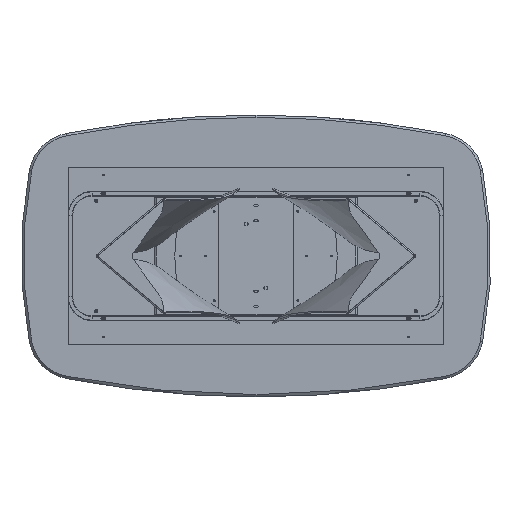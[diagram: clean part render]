
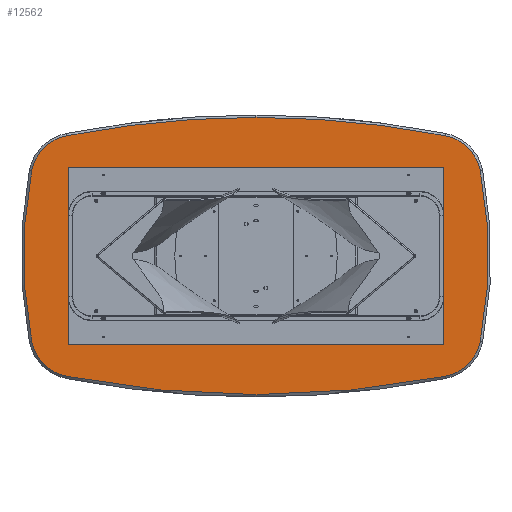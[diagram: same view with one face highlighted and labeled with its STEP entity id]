
A CAD part, front view. The second image highlights one B-rep face of the part: STEP entity #12562.
In plain terms, the highlighted planar face has unit normal (0, -1, 0).
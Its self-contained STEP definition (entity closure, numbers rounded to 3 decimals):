
#808 = DIRECTION ( 'NONE',  ( 0., 0., 1. ) ) ;
#1312 = DIRECTION ( 'NONE',  ( 0., 0., 1. ) ) ;
#1448 = DIRECTION ( 'NONE',  ( 0., -1., 0. ) ) ;
#1737 = CARTESIAN_POINT ( 'NONE',  ( 954.894, 0., -362.002 ) ) ;
#2273 = ORIENTED_EDGE ( 'NONE', *, *, #12374, .T. ) ;
#2516 = DIRECTION ( 'NONE',  ( 0., -1., 0. ) ) ;
#2934 = CARTESIAN_POINT ( 'NONE',  ( -768.435, 0., 325.495 ) ) ;
#3034 = DIRECTION ( 'NONE',  ( 0., 0., 1. ) ) ;
#3231 = EDGE_CURVE ( 'NONE', #20657, #8502, #19965, .T. ) ;
#3350 = CARTESIAN_POINT ( 'NONE',  ( -954.894, 0., 362.002 ) ) ;
#3565 = DIRECTION ( 'NONE',  ( 0., -1., 0. ) ) ;
#3782 = CARTESIAN_POINT ( 'NONE',  ( 0., 0., 590. ) ) ;
#4002 = EDGE_CURVE ( 'NONE', #11509, #10045, #9944, .T. ) ;
#4043 = ORIENTED_EDGE ( 'NONE', *, *, #3231, .T. ) ;
#4241 = DIRECTION ( 'NONE',  ( 0., 0., 1. ) ) ;
#4592 = EDGE_CURVE ( 'NONE', #22443, #9023, #7871, .T. ) ;
#4751 = PLANE ( 'NONE',  #10622 ) ;
#5029 = DIRECTION ( 'NONE',  ( 0., -1., 0. ) ) ;
#5567 = AXIS2_PLACEMENT_3D ( 'NONE', #10257, #2516, #22293 ) ;
#5725 = AXIS2_PLACEMENT_3D ( 'NONE', #13643, #21590, #1312 ) ;
#5728 = DIRECTION ( 'NONE',  ( 0., -1., 0. ) ) ;
#5924 = DIRECTION ( 'NONE',  ( 0., 0., 1. ) ) ;
#5979 = EDGE_CURVE ( 'NONE', #22983, #15484, #19571, .T. ) ;
#6115 = CARTESIAN_POINT ( 'NONE',  ( -954.894, 0., -362.002 ) ) ;
#7177 = CARTESIAN_POINT ( 'NONE',  ( 804.935, 0., 511.956 ) ) ;
#7457 = AXIS2_PLACEMENT_3D ( 'NONE', #10781, #9195, #3034 ) ;
#7871 = CIRCLE ( 'NONE', #18345, 4190. ) ;
#8502 = VERTEX_POINT ( 'NONE', #9979 ) ;
#8556 = FACE_OUTER_BOUND ( 'NONE', #22037, .T. ) ;
#9023 = VERTEX_POINT ( 'NONE', #3782 ) ;
#9195 = DIRECTION ( 'NONE',  ( 0., -1., 0. ) ) ;
#9944 = CIRCLE ( 'NONE', #11637, 190. ) ;
#9979 = CARTESIAN_POINT ( 'NONE',  ( 804.935, 0., -511.956 ) ) ;
#10045 = VERTEX_POINT ( 'NONE', #3350 ) ;
#10257 = CARTESIAN_POINT ( 'NONE',  ( -768.435, 0., -325.495 ) ) ;
#10399 = EDGE_CURVE ( 'NONE', #10045, #13575, #15977, .T. ) ;
#10622 = AXIS2_PLACEMENT_3D ( 'NONE', #16551, #14471, #18106 ) ;
#10774 = CIRCLE ( 'NONE', #5725, 190. ) ;
#10781 = CARTESIAN_POINT ( 'NONE',  ( 768.435, 0., 325.495 ) ) ;
#11315 = ORIENTED_EDGE ( 'NONE', *, *, #13405, .T. ) ;
#11509 = VERTEX_POINT ( 'NONE', #21171 ) ;
#11573 = CARTESIAN_POINT ( 'NONE',  ( 0., 0., -3600. ) ) ;
#11637 = AXIS2_PLACEMENT_3D ( 'NONE', #2934, #5029, #25065 ) ;
#12374 = EDGE_CURVE ( 'NONE', #13575, #20657, #16467, .T. ) ;
#12562 = ADVANCED_FACE ( 'NONE', ( #8556 ), #4751, .F. ) ;
#12632 = AXIS2_PLACEMENT_3D ( 'NONE', #24278, #24147, #4241 ) ;
#12755 = DIRECTION ( 'NONE',  ( 0., -1., 0. ) ) ;
#13405 = EDGE_CURVE ( 'NONE', #8502, #22983, #10774, .T. ) ;
#13416 = CIRCLE ( 'NONE', #14262, 4190. ) ;
#13455 = ORIENTED_EDGE ( 'NONE', *, *, #5979, .T. ) ;
#13575 = VERTEX_POINT ( 'NONE', #6115 ) ;
#13643 = CARTESIAN_POINT ( 'NONE',  ( 768.435, 0., -325.495 ) ) ;
#14262 = AXIS2_PLACEMENT_3D ( 'NONE', #11573, #3565, #5924 ) ;
#14269 = DIRECTION ( 'NONE',  ( 0., 0., 1. ) ) ;
#14352 = EDGE_CURVE ( 'NONE', #15484, #22443, #17901, .T. ) ;
#14471 = DIRECTION ( 'NONE',  ( 0., 1., 0. ) ) ;
#15099 = ORIENTED_EDGE ( 'NONE', *, *, #4002, .T. ) ;
#15484 = VERTEX_POINT ( 'NONE', #24012 ) ;
#15977 = CIRCLE ( 'NONE', #12632, 1884. ) ;
#16467 = CIRCLE ( 'NONE', #5567, 190. ) ;
#16551 = CARTESIAN_POINT ( 'NONE',  ( -447., 0., 1800. ) ) ;
#17817 = CARTESIAN_POINT ( 'NONE',  ( 0., 0., -3600. ) ) ;
#17876 = AXIS2_PLACEMENT_3D ( 'NONE', #21955, #5728, #14269 ) ;
#17895 = ORIENTED_EDGE ( 'NONE', *, *, #4592, .T. ) ;
#17901 = CIRCLE ( 'NONE', #7457, 190. ) ;
#18106 = DIRECTION ( 'NONE',  ( 0., 0., 1. ) ) ;
#18345 = AXIS2_PLACEMENT_3D ( 'NONE', #17817, #1448, #25415 ) ;
#18509 = CARTESIAN_POINT ( 'NONE',  ( -894., 0., 0. ) ) ;
#18755 = AXIS2_PLACEMENT_3D ( 'NONE', #18509, #12755, #808 ) ;
#19322 = ORIENTED_EDGE ( 'NONE', *, *, #10399, .T. ) ;
#19571 = CIRCLE ( 'NONE', #18755, 1884. ) ;
#19821 = EDGE_CURVE ( 'NONE', #9023, #11509, #13416, .T. ) ;
#19965 = CIRCLE ( 'NONE', #17876, 4190. ) ;
#20657 = VERTEX_POINT ( 'NONE', #22655 ) ;
#21101 = ORIENTED_EDGE ( 'NONE', *, *, #19821, .T. ) ;
#21171 = CARTESIAN_POINT ( 'NONE',  ( -804.935, 0., 511.956 ) ) ;
#21590 = DIRECTION ( 'NONE',  ( 0., -1., 0. ) ) ;
#21856 = ORIENTED_EDGE ( 'NONE', *, *, #14352, .T. ) ;
#21955 = CARTESIAN_POINT ( 'NONE',  ( 0., 0., 3600. ) ) ;
#22037 = EDGE_LOOP ( 'NONE', ( #2273, #4043, #11315, #13455, #21856, #17895, #21101, #15099, #19322 ) ) ;
#22293 = DIRECTION ( 'NONE',  ( 0., 0., 1. ) ) ;
#22443 = VERTEX_POINT ( 'NONE', #7177 ) ;
#22655 = CARTESIAN_POINT ( 'NONE',  ( -804.935, 0., -511.956 ) ) ;
#22983 = VERTEX_POINT ( 'NONE', #1737 ) ;
#24012 = CARTESIAN_POINT ( 'NONE',  ( 954.894, 0., 362.002 ) ) ;
#24147 = DIRECTION ( 'NONE',  ( 0., -1., 0. ) ) ;
#24278 = CARTESIAN_POINT ( 'NONE',  ( 894., 0., 0. ) ) ;
#25065 = DIRECTION ( 'NONE',  ( 0., 0., 1. ) ) ;
#25415 = DIRECTION ( 'NONE',  ( 0., 0., 1. ) ) ;
